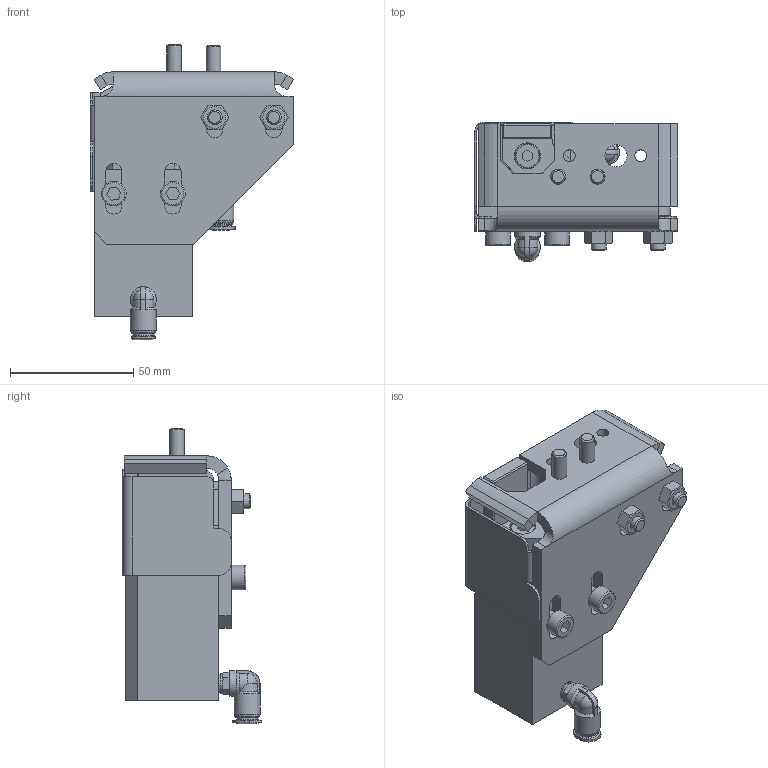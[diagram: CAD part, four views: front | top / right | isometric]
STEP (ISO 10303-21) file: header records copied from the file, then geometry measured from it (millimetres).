
FILE_DESCRIPTION (( 'STEP AP203' ), '1' );
FILE_NAME ('ASUTEC-ASME-60-W-102.STEP', '2017-11-27T11:45:08', ( '' ), ( '' ), 'SwSTEP 2.0', 'SolidWorks 2015', '' );
FILE_SCHEMA (( 'CONFIG_CONTROL_DESIGN' ));
Length unit declared in the file: metre
Products named in the file (1): ASUTEC-ASME-60-W-102
Bounding box: 82.5 x 56.6 x 119.95 mm (x, y, z)
Volume: 142115.5 mm3; surface area: 59199 mm2
Topology: 4 solids, 4 shells, 703 faces, 1768 edges, 1133 vertices
Faces by surface type: plane 423, cylinder 141, cone 67, bspline 51, torus 13, sphere 8
Full cylindrical faces by diameter (mm): 2.1 x4, 2.4 x1, 4.2 x2, 4.8 x2, 5 x4, 5.3 x1, 5.5 x2, 6 x10, 6.1 x2, 6.3 x2, 8 x4, 8.4 x2, 9 x1, 9.45 x2, 10 x7, 10.5 x4, 10.6 x1, 11.3 x2, 22 x2
Entity records: 23471 total; most frequent: CARTESIAN_POINT 7502, ORIENTED_EDGE 3240, DIRECTION 3076, EDGE_CURVE 1620, VERTEX_POINT 1088, VECTOR 1036, LINE 1036, AXIS2_PLACEMENT_3D 1020
